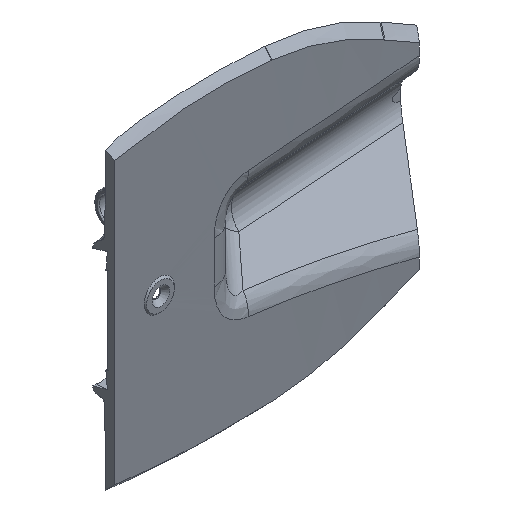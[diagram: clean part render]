
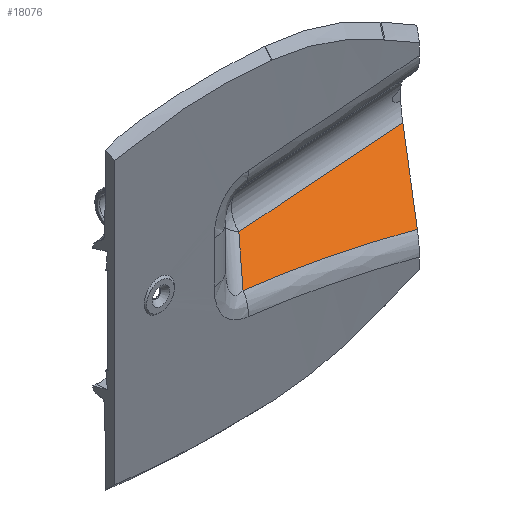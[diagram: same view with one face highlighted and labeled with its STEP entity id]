
A CAD part, isometric view. The second image highlights one B-rep face of the part: STEP entity #18076.
In plain terms, the highlighted planar face has unit normal (0.052, -0.739, 0.672).
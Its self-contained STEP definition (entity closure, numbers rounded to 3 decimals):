
#466=PLANE('',#18562);
#510=ELLIPSE('',#18457,109.197,73.353);
#1590=FACE_OUTER_BOUND('',#2656,.T.);
#2656=EDGE_LOOP('',(#16472,#16473,#16474,#16475));
#3261=LINE('',#28415,#4624);
#3972=LINE('',#36851,#5335);
#3978=LINE('',#36924,#5341);
#4624=VECTOR('',#19517,1.);
#5335=VECTOR('',#20636,1.);
#5341=VECTOR('',#20656,1.);
#7319=VERTEX_POINT('',#28412);
#7320=VERTEX_POINT('',#28414);
#8246=VERTEX_POINT('',#36782);
#8248=VERTEX_POINT('',#36822);
#9458=EDGE_CURVE('',#7319,#7320,#3261,.T.);
#10838=EDGE_CURVE('',#7320,#8248,#510,.T.);
#10839=EDGE_CURVE('',#8248,#8246,#3972,.T.);
#10850=EDGE_CURVE('',#8246,#7319,#3978,.T.);
#16472=ORIENTED_EDGE('',*,*,#10838,.F.);
#16473=ORIENTED_EDGE('',*,*,#9458,.F.);
#16474=ORIENTED_EDGE('',*,*,#10850,.F.);
#16475=ORIENTED_EDGE('',*,*,#10839,.F.);
#18076=ADVANCED_FACE('',(#1590),#466,.F.);
#18457=AXIS2_PLACEMENT_3D('',#36849,#20632,#20633);
#18562=AXIS2_PLACEMENT_3D('',#44583,#20892,#20893);
#19517=DIRECTION('',(-0.436,-0.622,-0.65));
#20632=DIRECTION('center_axis',(0.052,-0.739,0.672));
#20633=DIRECTION('ref_axis',(-0.047,0.67,0.741));
#20636=DIRECTION('',(0.504,0.6,0.621));
#20656=DIRECTION('',(0.998,0.071,0.));
#20892=DIRECTION('center_axis',(-0.052,0.739,-0.672));
#20893=DIRECTION('ref_axis',(0.,-0.673,-0.74));
#28412=CARTESIAN_POINT('',(9.675,5.55,-0.672));
#28414=CARTESIAN_POINT('',(8.417,3.753,-2.55));
#28415=CARTESIAN_POINT('',(9.54,5.357,-0.873));
#36782=CARTESIAN_POINT('',(3.166,5.089,-0.672));
#36822=CARTESIAN_POINT('',(2.361,4.13,-1.664));
#36849=CARTESIAN_POINT('Origin',(0.844,-69.208,-82.217));
#36851=CARTESIAN_POINT('',(4.137,6.246,0.525));
#36924=CARTESIAN_POINT('',(10.93,5.639,-0.672));
#44583=CARTESIAN_POINT('Origin',(11.,5.8,-0.5));
